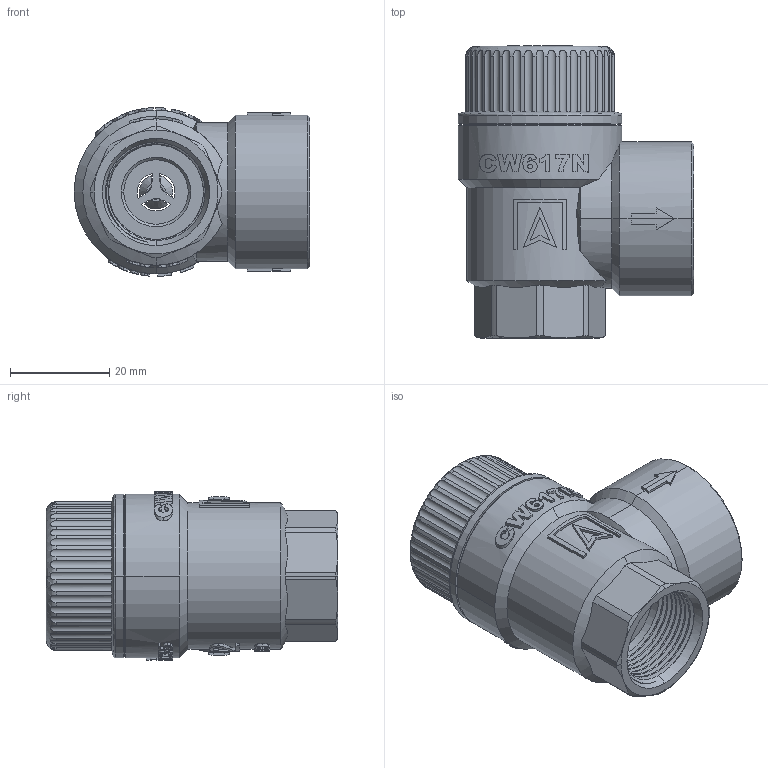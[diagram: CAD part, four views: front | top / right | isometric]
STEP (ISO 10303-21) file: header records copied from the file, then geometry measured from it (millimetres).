
FILE_DESCRIPTION (( 'STEP AP214' ), '1' );
FILE_NAME ('42375.STEP', '2022-04-12T12:47:57', ( '' ), ( '' ), 'SwSTEP 2.0', 'SolidWorks 2021', '' );
FILE_SCHEMA (( 'AUTOMOTIVE_DESIGN' ));
Length unit declared in the file: millimetre
Products named in the file (4): 42375; 30915205; 30005562; 90005350
Assembly tree (3 placements, depth 3):
  42375
    90005350
      30005562
      30915205
Bounding box: 47.5 x 58.85 x 34 mm (x, y, z)
Volume: 18864.7 mm3; surface area: 17593.9 mm2
Topology: 2 solids, 2 shells, 761 faces, 2061 edges, 1355 vertices
Faces by surface type: plane 290, cylinder 231, bspline 183, cone 57
Entity records: 43346 total; most frequent: CARTESIAN_POINT 17447, ORIENTED_EDGE 4122, DIRECTION 2888, EDGE_CURVE 2061, VERTEX_POINT 1355, AXIS2_PLACEMENT_3D 966, VECTOR 956, LINE 956
